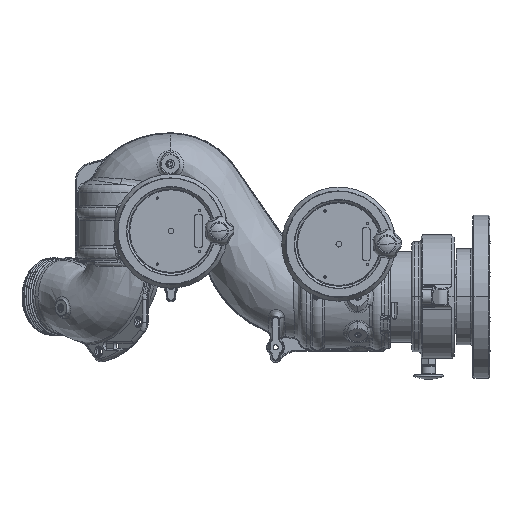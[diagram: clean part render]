
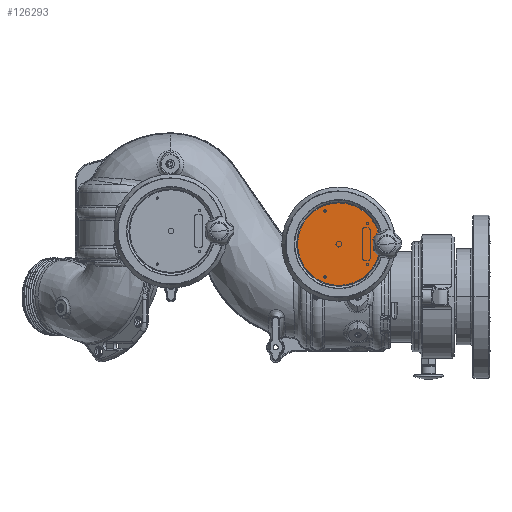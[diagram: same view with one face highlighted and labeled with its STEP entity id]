
A CAD part, left-side view. The second image highlights one B-rep face of the part: STEP entity #126293.
In plain terms, the highlighted planar face has unit normal (-1, 0, 0).
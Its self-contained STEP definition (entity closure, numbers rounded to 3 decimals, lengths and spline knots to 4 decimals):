
#944 = AXIS2_PLACEMENT_3D ( 'NONE', #86657, #170974, #172801 ) ;
#3123 = VERTEX_POINT ( 'NONE', #65778 ) ;
#4774 = ORIENTED_EDGE ( 'NONE', *, *, #73943, .T. ) ;
#4876 = AXIS2_PLACEMENT_3D ( 'NONE', #64780, #109360, #79081 ) ;
#15668 = CIRCLE ( 'NONE', #35041, 0.05 ) ;
#17034 = VERTEX_POINT ( 'NONE', #87324 ) ;
#20313 = CARTESIAN_POINT ( 'NONE',  ( -5.148, -1.75, 2.875 ) ) ;
#22398 = ORIENTED_EDGE ( 'NONE', *, *, #143582, .F. ) ;
#25561 = CIRCLE ( 'NONE', #139152, 0.05 ) ;
#30265 = DIRECTION ( 'NONE',  ( -1., 0., 0. ) ) ;
#35041 = AXIS2_PLACEMENT_3D ( 'NONE', #44768, #116689, #144045 ) ;
#35171 = EDGE_CURVE ( 'NONE', #17034, #3123, #25561, .T. ) ;
#38219 = DIRECTION ( 'NONE',  ( -1., 0., 0. ) ) ;
#39031 = DIRECTION ( 'NONE',  ( -1., 0., 0. ) ) ;
#41324 = EDGE_CURVE ( 'NONE', #151769, #121815, #44664, .T. ) ;
#44664 = CIRCLE ( 'NONE', #108683, 2.25 ) ;
#44768 = CARTESIAN_POINT ( 'NONE',  ( -5.148, -1.001, 4.675 ) ) ;
#56325 = CIRCLE ( 'NONE', #122836, 2.25 ) ;
#57095 = EDGE_CURVE ( 'NONE', #79846, #126629, #15668, .T. ) ;
#61224 = DIRECTION ( 'NONE',  ( 0., 0., 1. ) ) ;
#64780 = CARTESIAN_POINT ( 'NONE',  ( -5.148, -1.001, 4.675 ) ) ;
#65778 = CARTESIAN_POINT ( 'NONE',  ( -5.148, -1.001, 1.025 ) ) ;
#68191 = DIRECTION ( 'NONE',  ( 0., 0., 1. ) ) ;
#68791 = CARTESIAN_POINT ( 'NONE',  ( -5.148, -1.001, 1.075 ) ) ;
#73943 = EDGE_CURVE ( 'NONE', #121815, #151769, #56325, .T. ) ;
#79081 = DIRECTION ( 'NONE',  ( 0., 0., 1. ) ) ;
#79846 = VERTEX_POINT ( 'NONE', #126749 ) ;
#81053 = DIRECTION ( 'NONE',  ( 0., 0., 1. ) ) ;
#86657 = CARTESIAN_POINT ( 'NONE',  ( -5.148, -1.75, 2.875 ) ) ;
#87324 = CARTESIAN_POINT ( 'NONE',  ( -5.148, -1.001, 1.125 ) ) ;
#89242 = CARTESIAN_POINT ( 'NONE',  ( -5.148, -1.75, 5.125 ) ) ;
#93868 = CARTESIAN_POINT ( 'NONE',  ( -5.148, -1.75, 0.625 ) ) ;
#98691 = CIRCLE ( 'NONE', #4876, 0.05 ) ;
#100399 = FACE_OUTER_BOUND ( 'NONE', #157705, .T. ) ;
#102172 = DIRECTION ( 'NONE',  ( 0., 0., 1. ) ) ;
#108683 = AXIS2_PLACEMENT_3D ( 'NONE', #153024, #38219, #81053 ) ;
#109360 = DIRECTION ( 'NONE',  ( -1., 0., 0. ) ) ;
#109566 = ORIENTED_EDGE ( 'NONE', *, *, #35171, .F. ) ;
#111889 = CARTESIAN_POINT ( 'NONE',  ( -5.148, -1.001, 4.725 ) ) ;
#115752 = PLANE ( 'NONE',  #944 ) ;
#116689 = DIRECTION ( 'NONE',  ( -1., 0., 0. ) ) ;
#121815 = VERTEX_POINT ( 'NONE', #89242 ) ;
#122836 = AXIS2_PLACEMENT_3D ( 'NONE', #20313, #160550, #61224 ) ;
#124757 = FACE_BOUND ( 'NONE', #155655, .T. ) ;
#125139 = EDGE_LOOP ( 'NONE', ( #152289, #168658 ) ) ;
#126293 = ADVANCED_FACE ( 'NONE', ( #124757, #100399, #171421 ), #115752, .T. ) ;
#126629 = VERTEX_POINT ( 'NONE', #111889 ) ;
#126749 = CARTESIAN_POINT ( 'NONE',  ( -5.148, -1.001, 4.625 ) ) ;
#138232 = ORIENTED_EDGE ( 'NONE', *, *, #41324, .T. ) ;
#138706 = AXIS2_PLACEMENT_3D ( 'NONE', #68791, #39031, #68191 ) ;
#139152 = AXIS2_PLACEMENT_3D ( 'NONE', #158067, #30265, #102172 ) ;
#143582 = EDGE_CURVE ( 'NONE', #3123, #17034, #151942, .T. ) ;
#144045 = DIRECTION ( 'NONE',  ( 0., 0., 1. ) ) ;
#149413 = EDGE_CURVE ( 'NONE', #126629, #79846, #98691, .T. ) ;
#151769 = VERTEX_POINT ( 'NONE', #93868 ) ;
#151942 = CIRCLE ( 'NONE', #138706, 0.05 ) ;
#152289 = ORIENTED_EDGE ( 'NONE', *, *, #57095, .F. ) ;
#153024 = CARTESIAN_POINT ( 'NONE',  ( -5.148, -1.75, 2.875 ) ) ;
#155655 = EDGE_LOOP ( 'NONE', ( #22398, #109566 ) ) ;
#157705 = EDGE_LOOP ( 'NONE', ( #138232, #4774 ) ) ;
#158067 = CARTESIAN_POINT ( 'NONE',  ( -5.148, -1.001, 1.075 ) ) ;
#160550 = DIRECTION ( 'NONE',  ( -1., 0., 0. ) ) ;
#168658 = ORIENTED_EDGE ( 'NONE', *, *, #149413, .F. ) ;
#170974 = DIRECTION ( 'NONE',  ( -1., 0., 0. ) ) ;
#171421 = FACE_BOUND ( 'NONE', #125139, .T. ) ;
#172801 = DIRECTION ( 'NONE',  ( 0., 0., 1. ) ) ;
